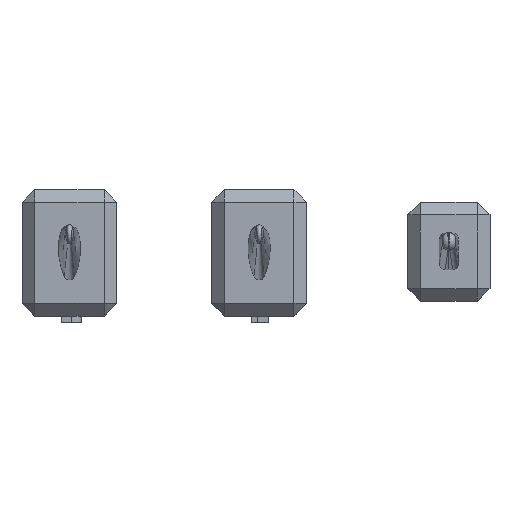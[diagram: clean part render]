
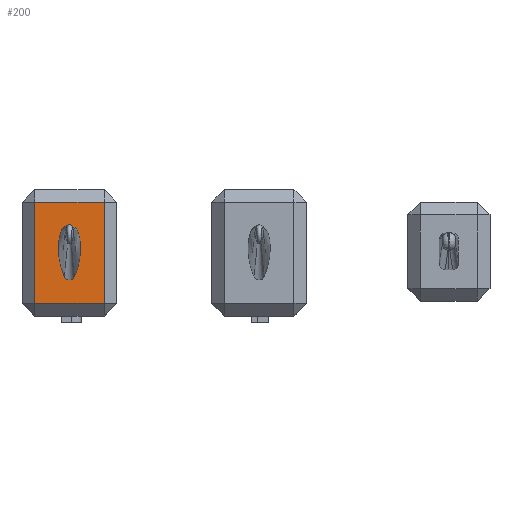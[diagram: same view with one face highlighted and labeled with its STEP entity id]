
A CAD part, top view. The second image highlights one B-rep face of the part: STEP entity #200.
In plain terms, the highlighted planar face has unit normal (0, 0, 1).
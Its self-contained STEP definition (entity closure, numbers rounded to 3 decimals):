
#200=ADVANCED_FACE('',(#385),#2513,.T.);
#385=FACE_OUTER_BOUND('',#574,.T.);
#574=EDGE_LOOP('',(#1049,#1050,#1051,#1052));
#1049=ORIENTED_EDGE('',*,*,#1650,.F.);
#1050=ORIENTED_EDGE('',*,*,#1649,.F.);
#1051=ORIENTED_EDGE('',*,*,#1651,.F.);
#1052=ORIENTED_EDGE('',*,*,#1648,.F.);
#1648=EDGE_CURVE('',#2353,#2354,#2043,.T.);
#1649=EDGE_CURVE('',#2355,#2356,#2044,.T.);
#1650=EDGE_CURVE('',#2356,#2353,#2045,.T.);
#1651=EDGE_CURVE('',#2354,#2355,#2046,.T.);
#2043=B_SPLINE_CURVE_WITH_KNOTS('',1,(#4365,#4366),.UNSPECIFIED.,.F.,.F.,
(2,2),(0.4,3.6),.UNSPECIFIED.);
#2044=B_SPLINE_CURVE_WITH_KNOTS('',1,(#4367,#4368),.UNSPECIFIED.,.F.,.F.,
(2,2),(0.4,3.6),.UNSPECIFIED.);
#2045=B_SPLINE_CURVE_WITH_KNOTS('',1,(#4369,#4370),.UNSPECIFIED.,.F.,.F.,
(2,2),(0.4,2.6),.UNSPECIFIED.);
#2046=B_SPLINE_CURVE_WITH_KNOTS('',1,(#4371,#4372),.UNSPECIFIED.,.F.,.F.,
(2,2),(0.4,2.6),.UNSPECIFIED.);
#2353=VERTEX_POINT('',#4321);
#2354=VERTEX_POINT('',#4322);
#2355=VERTEX_POINT('',#4323);
#2356=VERTEX_POINT('',#4324);
#2513=PLANE('',#2726);
#2726=AXIS2_PLACEMENT_3D('',#4256,#2862,$);
#2862=DIRECTION('',(0.,0.,1.));
#4256=CARTESIAN_POINT('',(-4.5,-2.,2.));
#4321=CARTESIAN_POINT('',(-7.1,-1.6,2.));
#4322=CARTESIAN_POINT('',(-7.1,1.6,2.));
#4323=CARTESIAN_POINT('',(-4.9,1.6,2.));
#4324=CARTESIAN_POINT('',(-4.9,-1.6,2.));
#4365=CARTESIAN_POINT('',(-7.1,-1.6,2.));
#4366=CARTESIAN_POINT('',(-7.1,1.6,2.));
#4367=CARTESIAN_POINT('',(-4.9,1.6,2.));
#4368=CARTESIAN_POINT('',(-4.9,-1.6,2.));
#4369=CARTESIAN_POINT('',(-4.9,-1.6,2.));
#4370=CARTESIAN_POINT('',(-7.1,-1.6,2.));
#4371=CARTESIAN_POINT('',(-7.1,1.6,2.));
#4372=CARTESIAN_POINT('',(-4.9,1.6,2.));
